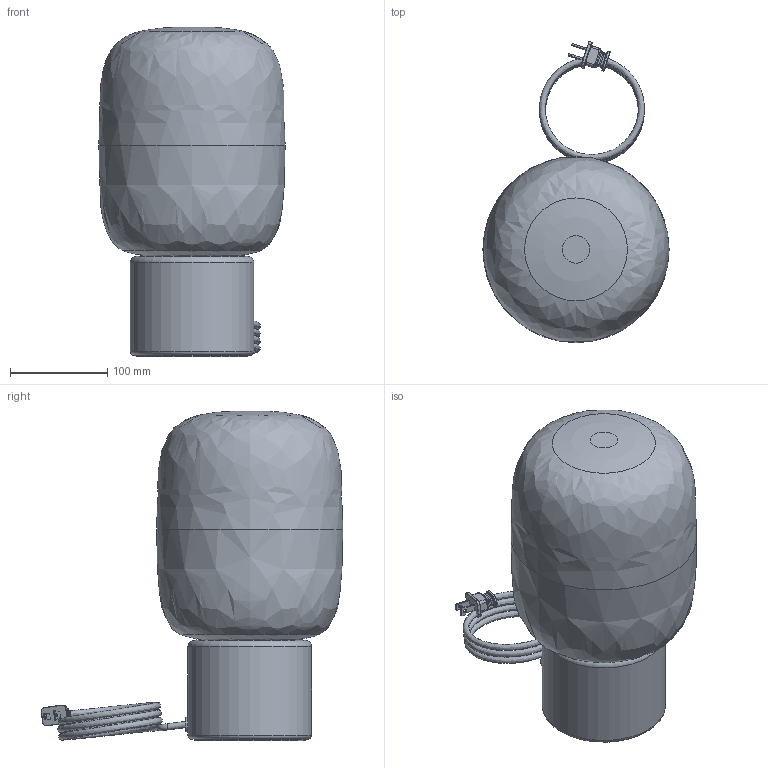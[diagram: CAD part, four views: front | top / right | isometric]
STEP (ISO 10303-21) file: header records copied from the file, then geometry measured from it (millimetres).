
FILE_DESCRIPTION(/* description */ (''),/* implementation_level */ '2;1');
FILE_NAME(/* name */ 'Arca Tall - Ionic Table Lamp - Opalia Collection.step',/* time_stamp */ '2024-07-26T15:30:57-04:00',/* author */ (''),/* organization */ (''),/* preprocessor_version */ 'ST-DEVELOPER v20',/* originating_system */ 'Autodesk Translation Framework v13.14.0.145',/* authorisation */ '');
FILE_SCHEMA (('AUTOMOTIVE_DESIGN { 1 0 10303 214 3 1 1 }'));
Length unit declared in the file: inch
Products named in the file (18): Marble Base - Ionic Table Lamp - Ketra Ready - 120V - Opalia Collecti
on; Arca Tall; Arca Tall - Balon v3.3; Marble Base - Ionic Table Lamp - Ketra Ready - 120V; Coiled - SVT (Blk Fabric); Marble Base; 90701000093 ¹â°åE27µÆ×ù_¦Õ375
9mm_ºÚÉ«_CEÈÏÖ¤; 90701000096 M10ÑÀ¹Ü_M10L25mmÄÚ¿×¦
Õ7_²ÄÖÊ£ºÌú_¶Æ°×Ð
¿_RoHS; 90701000098 Ñ¹Ïß°å_PP_314612_º
ÚÉ«; 90701000097 M10Áù½Ç±¡ÂÝÄ¸_M10
_²ÄÖÊ£ºÌú_¶Æ°×Ð¿
_RoHS; M10ÄÚ¾â³ÝËø½ôµæÈ¦
_²ÄÖÊ£ºÌú_¶Æ°×Ð¿
_RoHS; Plastic Insert; Silicone Gasket; Neoprene Pad; 2-Pole Plug End; Rubber Grommet; Ketra - A20 Tunable Lamp; Ketra A20
Assembly tree (17 placements, depth 3):
  Marble Base - Ionic Table Lamp - Ketra Ready - 120V - Opalia Collecti
on
    Arca Tall
      Arca Tall - Balon v3.3
    Marble Base - Ionic Table Lamp - Ketra Ready - 120V
      Coiled - SVT (Blk Fabric)
      Marble Base
      90701000093 ¹â°åE27µÆ×ù_¦Õ375
9mm_ºÚÉ«_CEÈÏÖ¤
      90701000096 M10ÑÀ¹Ü_M10L25mmÄÚ¿×¦
Õ7_²ÄÖÊ£ºÌú_¶Æ°×Ð
¿_RoHS
      90701000098 Ñ¹Ïß°å_PP_314612_º
ÚÉ«
      90701000097 M10Áù½Ç±¡ÂÝÄ¸_M10
_²ÄÖÊ£ºÌú_¶Æ°×Ð¿
_RoHS
      M10ÄÚ¾â³ÝËø½ôµæÈ¦
_²ÄÖÊ£ºÌú_¶Æ°×Ð¿
_RoHS
      Plastic Insert
      Silicone Gasket
      Neoprene Pad
      2-Pole Plug End
      Rubber Grommet
    Ketra - A20 Tunable Lamp
      Ketra A20
Bounding box: 191.36 x 310.03 x 338.9 mm (x, y, z)
Volume: 1553570 mm3; surface area: 607264.9 mm2
Topology: 14 solids, 15 shells, 2003 faces, 5320 edges, 3495 vertices
Faces by surface type: plane 983, bspline 822, cylinder 131, cone 34, torus 32, sphere 1
Full cylindrical faces by diameter (mm): 3.175 x2, 4.092 x1, 6.35 x2, 7 x1, 7.62 x1, 8.128 x1, 8.3 x1, 8.376 x14, 10 x16, 10.16 x1, 10.5 x1, 10.922 x1, 11 x1, 11.684 x1, 14 x1, 15.24 x2, 16 x1, 21 x1, 25.4 x3, 27 x1, 35.5 x1, 37.5 x1, 39.37 x1, 41.402 x1, 80.518 x1, 82.55 x1, 93.98 x3, 98.044 x1, 100.076 x1, 100.635 x1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
Entity records: 78772 total; most frequent: CARTESIAN_POINT 33893, ORIENTED_EDGE 10636, DIRECTION 6419, EDGE_CURVE 5319, VERTEX_POINT 3495, LINE 3265, VECTOR 3265, EDGE_LOOP 2180
